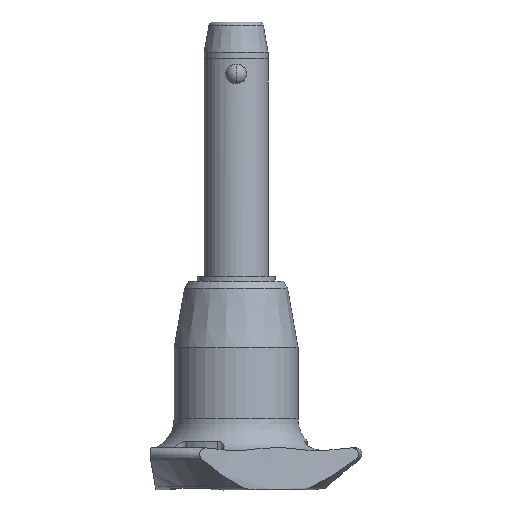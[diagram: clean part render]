
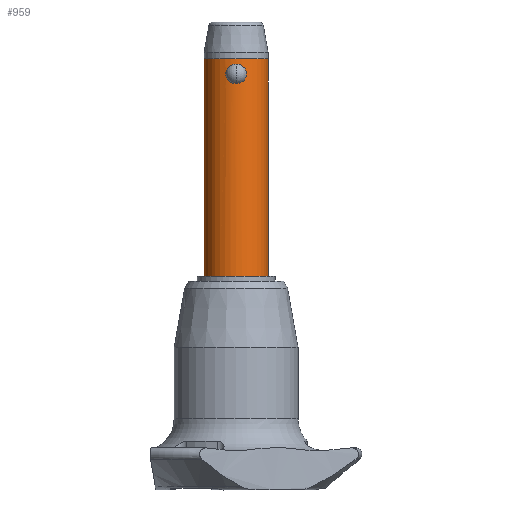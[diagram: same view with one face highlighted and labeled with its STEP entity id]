
A CAD part, front view. The second image highlights one B-rep face of the part: STEP entity #959.
In plain terms, the highlighted cylindrical face has radius 5 mm (diameter 10 mm), a partial arc.
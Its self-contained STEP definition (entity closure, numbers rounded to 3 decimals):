
#18 = DIRECTION ( 'NONE',  ( 0., 0., 1. ) ) ;
#53 = CARTESIAN_POINT ( 'NONE',  ( 0.792, -4.938, 0.19 ) ) ;
#96 = CARTESIAN_POINT ( 'NONE',  ( 5., 0., -30. ) ) ;
#100 = CARTESIAN_POINT ( 'NONE',  ( 1.551, -4.753, 1.922 ) ) ;
#103 = CARTESIAN_POINT ( 'NONE',  ( -1.551, -4.753, 1.11 ) ) ;
#111 = CARTESIAN_POINT ( 'NONE',  ( 1.594, -4.739, 1.721 ) ) ;
#127 = CARTESIAN_POINT ( 'NONE',  ( -0.965, -4.907, 2.738 ) ) ;
#138 = CARTESIAN_POINT ( 'NONE',  ( -0.699, -4.952, 0.145 ) ) ;
#250 = CARTESIAN_POINT ( 'NONE',  ( -5., 0., -30. ) ) ;
#265 = CARTESIAN_POINT ( 'NONE',  ( 0.412, -4.987, 0.037 ) ) ;
#292 = ORIENTED_EDGE ( 'NONE', *, *, #1672, .F. ) ;
#316 = CARTESIAN_POINT ( 'NONE',  ( -1.435, -4.79, 2.209 ) ) ;
#330 = CARTESIAN_POINT ( 'NONE',  ( 1.56, -4.751, 1.103 ) ) ;
#337 = EDGE_CURVE ( 'NONE', #599, #2350, #1985, .T. ) ;
#352 = CARTESIAN_POINT ( 'NONE',  ( 0., -5., 3.033 ) ) ;
#356 = CARTESIAN_POINT ( 'NONE',  ( -0.966, -4.907, 0.296 ) ) ;
#358 = CARTESIAN_POINT ( 'NONE',  ( 0., 0., -30. ) ) ;
#388 = ORIENTED_EDGE ( 'NONE', *, *, #749, .F. ) ;
#411 = EDGE_CURVE ( 'NONE', #2350, #880, #1238, .T. ) ;
#493 = CARTESIAN_POINT ( 'NONE',  ( 1.265, -4.838, 0.57 ) ) ;
#555 = CARTESIAN_POINT ( 'NONE',  ( 1.604, -4.736, 1.619 ) ) ;
#566 = EDGE_CURVE ( 'NONE', #2576, #714, #1241, .T. ) ;
#568 = CARTESIAN_POINT ( 'NONE',  ( 0.7, -4.952, 2.888 ) ) ;
#571 = CARTESIAN_POINT ( 'NONE',  ( -1.272, -4.838, 0.564 ) ) ;
#599 = VERTEX_POINT ( 'NONE', #1743 ) ;
#645 = CARTESIAN_POINT ( 'NONE',  ( -5., 0., 3.84 ) ) ;
#710 = DIRECTION ( 'NONE',  ( 1., 0., 0. ) ) ;
#714 = VERTEX_POINT ( 'NONE', #2510 ) ;
#749 = EDGE_CURVE ( 'NONE', #2429, #599, #1327, .T. ) ;
#752 = CARTESIAN_POINT ( 'NONE',  ( 1.048, -4.889, 2.676 ) ) ;
#759 = CARTESIAN_POINT ( 'NONE',  ( 0., 0., -30. ) ) ;
#762 = CARTESIAN_POINT ( 'NONE',  ( 1.272, -4.838, 2.47 ) ) ;
#780 = CARTESIAN_POINT ( 'NONE',  ( -1.56, -4.751, 1.931 ) ) ;
#781 = CARTESIAN_POINT ( 'NONE',  ( 0., -5., 3.033 ) ) ;
#795 = FACE_OUTER_BOUND ( 'NONE', #836, .T. ) ;
#804 = DIRECTION ( 'NONE',  ( 0., 0., 1. ) ) ;
#836 = EDGE_LOOP ( 'NONE', ( #2670, #388, #936, #2446 ) ) ;
#853 = B_SPLINE_CURVE_WITH_KNOTS ( 'NONE', 3,
 ( #950, #2669, #265, #1140, #53, #922, #1807, #2467, #493, #2290, #1185, #330, #1019, #555, #111, #100, #1227, #2513, #762, #752, #2739, #1850, #568, #1418, #1900, #352 ),
 .UNSPECIFIED., .F., .F.,
 ( 4, 2, 2, 2, 2, 2, 2, 2, 2, 2, 2, 2, 4 ),
 ( 0.005, 0.006, 0.006, 0.006, 0.006, 0.007, 0.007, 0.008, 0.008, 0.009, 0.009, 0.009, 0.01 ),
 .UNSPECIFIED. ) ;
#880 = VERTEX_POINT ( 'NONE', #1210 ) ;
#922 = CARTESIAN_POINT ( 'NONE',  ( 0.966, -4.907, 0.296 ) ) ;
#936 = ORIENTED_EDGE ( 'NONE', *, *, #2826, .T. ) ;
#950 = CARTESIAN_POINT ( 'NONE',  ( 0., -5., 0. ) ) ;
#959 = ADVANCED_FACE ( 'NONE', ( #795, #1236 ), #2578, .T. ) ;
#1011 = CARTESIAN_POINT ( 'NONE',  ( -0.205, -5., 0. ) ) ;
#1019 = CARTESIAN_POINT ( 'NONE',  ( 1.604, -4.736, 1.308 ) ) ;
#1023 = EDGE_LOOP ( 'NONE', ( #1896, #292 ) ) ;
#1140 = CARTESIAN_POINT ( 'NONE',  ( 0.699, -4.952, 0.144 ) ) ;
#1185 = CARTESIAN_POINT ( 'NONE',  ( 1.434, -4.79, 0.822 ) ) ;
#1206 = CARTESIAN_POINT ( 'NONE',  ( -1.604, -4.736, 1.416 ) ) ;
#1210 = CARTESIAN_POINT ( 'NONE',  ( 5., 0., 3.84 ) ) ;
#1217 = CARTESIAN_POINT ( 'NONE',  ( 0., -5., 3.033 ) ) ;
#1227 = CARTESIAN_POINT ( 'NONE',  ( 1.519, -4.764, 2.021 ) ) ;
#1229 = CARTESIAN_POINT ( 'NONE',  ( -0.208, -5., 3.033 ) ) ;
#1236 = FACE_BOUND ( 'NONE', #1023, .T. ) ;
#1238 = CIRCLE ( 'NONE', #2344, 5. ) ;
#1241 = B_SPLINE_CURVE_WITH_KNOTS ( 'NONE', 3,
 ( #1217, #1229, #2556, #2318, #2099, #127, #2733, #2766, #2758, #2329, #316, #780, #1667, #1206, #1457, #103, #2545, #1410, #571, #1448, #356, #2111, #138, #2339, #1011, #1675 ),
 .UNSPECIFIED., .F., .F.,
 ( 4, 2, 2, 2, 2, 2, 2, 2, 2, 2, 2, 2, 4 ),
 ( 0., 0.001, 0.001, 0.001, 0.002, 0.002, 0.002, 0.003, 0.003, 0.004, 0.004, 0.004, 0.005 ),
 .UNSPECIFIED. ) ;
#1323 = VECTOR ( 'NONE', #18, 1000. ) ;
#1327 = CIRCLE ( 'NONE', #1788, 5. ) ;
#1410 = CARTESIAN_POINT ( 'NONE',  ( -1.394, -4.802, 0.731 ) ) ;
#1418 = CARTESIAN_POINT ( 'NONE',  ( 0.412, -4.987, 2.996 ) ) ;
#1448 = CARTESIAN_POINT ( 'NONE',  ( -1.047, -4.89, 0.357 ) ) ;
#1457 = CARTESIAN_POINT ( 'NONE',  ( -1.594, -4.739, 1.312 ) ) ;
#1543 = CARTESIAN_POINT ( 'NONE',  ( 5., 0., -30. ) ) ;
#1616 = DIRECTION ( 'NONE',  ( 0., 0., 1. ) ) ;
#1648 = DIRECTION ( 'NONE',  ( 1., 0., 0. ) ) ;
#1667 = CARTESIAN_POINT ( 'NONE',  ( -1.604, -4.736, 1.724 ) ) ;
#1672 = EDGE_CURVE ( 'NONE', #714, #2576, #853, .T. ) ;
#1675 = CARTESIAN_POINT ( 'NONE',  ( 0., -5., 0. ) ) ;
#1743 = CARTESIAN_POINT ( 'NONE',  ( -5., 0., -30. ) ) ;
#1788 = AXIS2_PLACEMENT_3D ( 'NONE', #759, #2708, #1648 ) ;
#1807 = CARTESIAN_POINT ( 'NONE',  ( 1.047, -4.89, 0.356 ) ) ;
#1850 = CARTESIAN_POINT ( 'NONE',  ( 0.792, -4.938, 2.844 ) ) ;
#1896 = ORIENTED_EDGE ( 'NONE', *, *, #566, .F. ) ;
#1900 = CARTESIAN_POINT ( 'NONE',  ( 0.208, -5., 3.033 ) ) ;
#1971 = VECTOR ( 'NONE', #1996, 1000. ) ;
#1985 = LINE ( 'NONE', #250, #1323 ) ;
#1996 = DIRECTION ( 'NONE',  ( 0., 0., 1. ) ) ;
#2025 = CARTESIAN_POINT ( 'NONE',  ( 0., 0., 3.84 ) ) ;
#2067 = LINE ( 'NONE', #96, #1971 ) ;
#2099 = CARTESIAN_POINT ( 'NONE',  ( -0.791, -4.938, 2.844 ) ) ;
#2111 = CARTESIAN_POINT ( 'NONE',  ( -0.792, -4.938, 0.19 ) ) ;
#2249 = AXIS2_PLACEMENT_3D ( 'NONE', #358, #804, #2747 ) ;
#2290 = CARTESIAN_POINT ( 'NONE',  ( 1.384, -4.805, 0.735 ) ) ;
#2318 = CARTESIAN_POINT ( 'NONE',  ( -0.7, -4.952, 2.888 ) ) ;
#2329 = CARTESIAN_POINT ( 'NONE',  ( -1.383, -4.805, 2.299 ) ) ;
#2339 = CARTESIAN_POINT ( 'NONE',  ( -0.412, -4.987, 0.037 ) ) ;
#2344 = AXIS2_PLACEMENT_3D ( 'NONE', #2025, #1616, #710 ) ;
#2350 = VERTEX_POINT ( 'NONE', #645 ) ;
#2429 = VERTEX_POINT ( 'NONE', #1543 ) ;
#2446 = ORIENTED_EDGE ( 'NONE', *, *, #411, .F. ) ;
#2467 = CARTESIAN_POINT ( 'NONE',  ( 1.196, -4.855, 0.493 ) ) ;
#2510 = CARTESIAN_POINT ( 'NONE',  ( 0., -5., 0. ) ) ;
#2513 = CARTESIAN_POINT ( 'NONE',  ( 1.395, -4.802, 2.301 ) ) ;
#2545 = CARTESIAN_POINT ( 'NONE',  ( -1.519, -4.764, 1.013 ) ) ;
#2556 = CARTESIAN_POINT ( 'NONE',  ( -0.412, -4.987, 2.997 ) ) ;
#2576 = VERTEX_POINT ( 'NONE', #781 ) ;
#2578 = CYLINDRICAL_SURFACE ( 'NONE', #2249, 5. ) ;
#2669 = CARTESIAN_POINT ( 'NONE',  ( 0.205, -5., 0. ) ) ;
#2670 = ORIENTED_EDGE ( 'NONE', *, *, #337, .F. ) ;
#2708 = DIRECTION ( 'NONE',  ( 0., 0., -1. ) ) ;
#2733 = CARTESIAN_POINT ( 'NONE',  ( -1.047, -4.89, 2.676 ) ) ;
#2739 = CARTESIAN_POINT ( 'NONE',  ( 0.966, -4.907, 2.738 ) ) ;
#2747 = DIRECTION ( 'NONE',  ( 1., 0., 0. ) ) ;
#2758 = CARTESIAN_POINT ( 'NONE',  ( -1.264, -4.838, 2.464 ) ) ;
#2766 = CARTESIAN_POINT ( 'NONE',  ( -1.197, -4.855, 2.539 ) ) ;
#2826 = EDGE_CURVE ( 'NONE', #2429, #880, #2067, .T. ) ;
